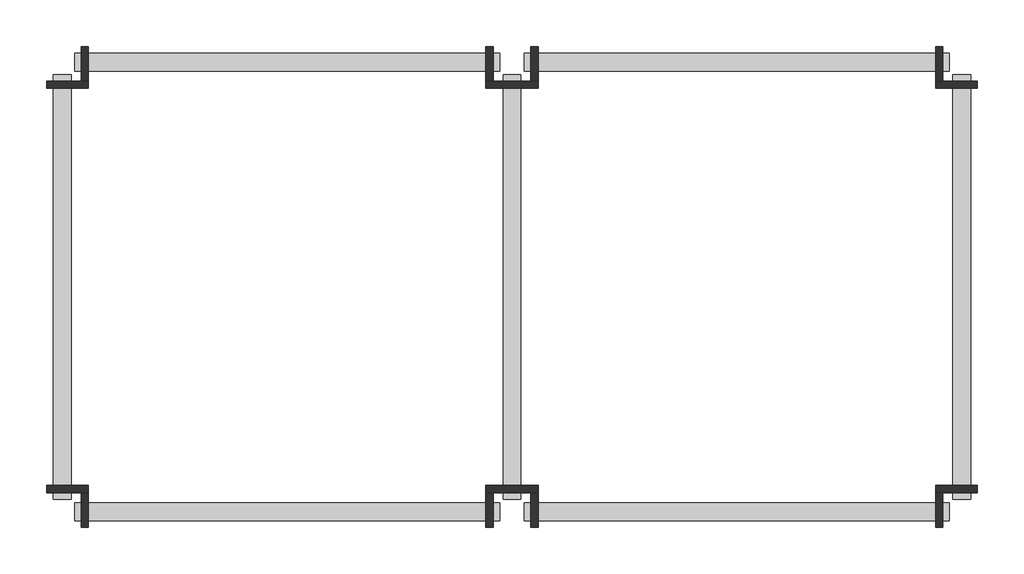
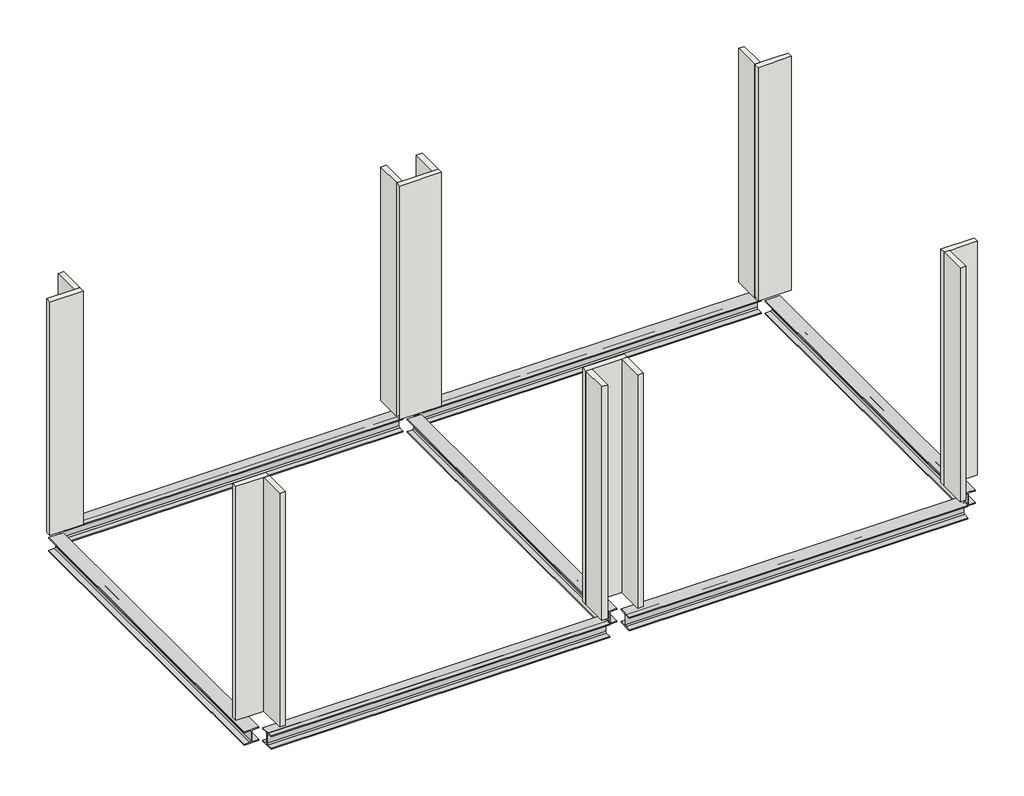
# One storey: 14 walls, 7 beams.
"""IFC4 building model written with IfcOpenShell, lengths in millimetres."""

from ifc_helpers import new_model, si_unit, frame, origin, place, context, project, spatial, polyline, outline, extrude, faceted_brep, transform, mapped, element, save
from components import heb200_d26bcb9a

model = new_model("IFC4")

# Units and contexts
model_context = context("Model", 3, world=origin())
ifc_project = project(units=[si_unit("LENGTHUNIT", "METRE", prefix="MILLI")], contexts=[model_context])

# Site, building, storey
site = spatial("IfcSite", under=ifc_project)
building = spatial("IfcBuilding", under=site)
storey = spatial("IfcBuildingStorey", under=building, Name="2階", Elevation=3800.0)

# Beams
placement = place(None, origin())
heb200_shape = heb200_d26bcb9a(model_context)
element("IfcBeam", 1, ObjectType="HE-B : HEB200", at=placement, inside=storey, context=model_context, shape_type="MappedRepresentation", body=[
    mapped(heb200_shape, transform((-5047.3880564, 86.0382733, 3550.0), x_axis=(0.0, -1.0, 0.0), y_axis=(1.0, 0.0, 0.0), z_axis=(0.0, 0.0, 1.0))),
])
element("IfcBeam", 2, ObjectType="HE-B : HEB200", at=placement, inside=storey, context=model_context, shape_type="MappedRepresentation", body=[
    mapped(heb200_shape, transform((-47.3880564, 86.0382733, 3550.0), x_axis=(0.0, -1.0, 0.0), y_axis=(1.0, 0.0, 0.0), z_axis=(0.0, 0.0, 1.0))),
])
element("IfcBeam", 3, ObjectType="HE-B : HEB200", at=placement, inside=storey, context=model_context, shape_type="MappedRepresentation", body=[
    mapped(heb200_shape, transform((4952.6119436, 86.0382733, 3550.0), x_axis=(0.0, -1.0, 0.0), y_axis=(1.0, 0.0, 0.0), z_axis=(0.0, 0.0, 1.0))),
])
element("IfcBeam", 4, ObjectType="HE-B : HEB200", at=placement, inside=storey, context=model_context, shape_type="MappedRepresentation", body=[
    mapped(heb200_shape, transform((2452.6119436, -2413.9617267, 3550.0), x_axis=(-1.0, 0.0, 0.0), y_axis=(0.0, -1.0, 0.0), z_axis=(0.0, 0.0, 1.0))),
])
element("IfcBeam", 5, ObjectType="HE-B : HEB200", at=placement, inside=storey, context=model_context, shape_type="MappedRepresentation", body=[
    mapped(heb200_shape, transform((-2547.3880564, -2413.9617267, 3550.0), x_axis=(-1.0, 0.0, 0.0), y_axis=(0.0, -1.0, 0.0), z_axis=(0.0, 0.0, 1.0))),
])
element("IfcBeam", 6, ObjectType="HE-B : HEB200", at=placement, inside=storey, context=model_context, shape_type="MappedRepresentation", body=[
    mapped(heb200_shape, transform((2452.6119436, 2586.0382733, 3550.0), x_axis=(-1.0, 0.0, 0.0), y_axis=(0.0, -1.0, 0.0), z_axis=(0.0, 0.0, 1.0))),
])
element("IfcBeam", 7, ObjectType="HE-B : HEB200", at=placement, inside=storey, context=model_context, shape_type="MappedRepresentation", body=[
    mapped(heb200_shape, transform((-2547.3880564, 2586.0382733, 3550.0), x_axis=(-1.0, 0.0, 0.0), y_axis=(0.0, -1.0, 0.0), z_axis=(0.0, 0.0, 1.0))),
])

# Walls
element("IfcWall", 8, ObjectType="内壁-79mm 間仕切り(1時間)", at=placement, inside=storey, context=model_context, shape_type="SweptSolid", body=[
    extrude(outline(polyline([(-4836.8880564, 2375.5382733), (-4836.8880564, 2761.0382733), (-4757.8880564, 2761.0382733), (-4757.8880564, 2375.5382733), (-4836.8880564, 2375.5382733)])), frame((0.0, 0.0, 3800.0), z_axis=(0.0, 0.0, 1.0), x_axis=(1.0, 0.0, 0.0)), (0.0, 0.0, 1.0), 3450.0),
])
element("IfcWall", 9, ObjectType="内壁-79mm 間仕切り(1時間)", at=placement, inside=storey, context=model_context, shape_type="Brep", body=[
    faceted_brep([(-4757.8880564, 2375.5382733, 3800.0), (-4836.8880564, 2375.5382733, 3800.0), (-5222.3880564, 2375.5382733, 3800.0), (-5222.3880564, 2375.5382733, 7250.0), (-4836.8880564, 2375.5382733, 7250.0), (-4757.8880564, 2375.5382733, 7250.0), (-4757.8880564, 2296.5382733, 3800.0), (-4757.8880564, 2296.5382733, 7250.0), (-5222.3880564, 2296.5382733, 7250.0), (-5222.3880564, 2296.5382733, 3800.0)], [[[0, 1, 2, 3, 4, 5]], [[6, 7, 8, 9]], [[2, 1, 0, 6, 9]], [[5, 4, 3, 8, 7]], [[0, 5, 7, 6]], [[3, 2, 9, 8]]]),
])
element("IfcWall", 10, ObjectType="内壁-79mm 間仕切り(1時間)", at=placement, inside=storey, context=model_context, shape_type="SweptSolid", body=[
    extrude(outline(polyline([(163.1119436, 2375.5382733), (163.1119436, 2761.0382733), (242.1119436, 2761.0382733), (242.1119436, 2375.5382733), (163.1119436, 2375.5382733)])), frame((0.0, 0.0, 3800.0), z_axis=(0.0, 0.0, 1.0), x_axis=(1.0, 0.0, 0.0)), (0.0, 0.0, 1.0), 3450.0),
])
element("IfcWall", 11, ObjectType="内壁-79mm 間仕切り(1時間)", at=placement, inside=storey, context=model_context, shape_type="Brep", body=[
    faceted_brep([(242.1119436, 2375.5382733, 3800.0), (163.1119436, 2375.5382733, 3800.0), (-257.8880564, 2375.5382733, 3800.0), (-336.8880564, 2375.5382733, 3800.0), (-336.8880564, 2375.5382733, 7250.0), (-257.8880564, 2375.5382733, 7250.0), (163.1119436, 2375.5382733, 7250.0), (242.1119436, 2375.5382733, 7250.0), (242.1119436, 2296.5382733, 3800.0), (242.1119436, 2296.5382733, 7250.0), (-336.8880564, 2296.5382733, 7250.0), (-336.8880564, 2296.5382733, 3800.0)], [[[0, 1, 2, 3, 4, 5, 6, 7]], [[8, 9, 10, 11]], [[3, 2, 1, 0, 8, 11]], [[7, 6, 5, 4, 10, 9]], [[0, 7, 9, 8]], [[4, 3, 11, 10]]]),
])
element("IfcWall", 12, ObjectType="内壁-79mm 間仕切り(1時間)", at=placement, inside=storey, context=model_context, shape_type="SweptSolid", body=[
    extrude(outline(polyline([(-257.8880564, 2761.0382733), (-257.8880564, 2375.5382733), (-336.8880564, 2375.5382733), (-336.8880564, 2761.0382733), (-257.8880564, 2761.0382733)])), frame((0.0, 0.0, 3800.0), z_axis=(0.0, 0.0, 1.0), x_axis=(1.0, 0.0, 0.0)), (0.0, 0.0, 1.0), 3450.0),
])
element("IfcWall", 13, ObjectType="内壁-79mm 間仕切り(1時間)", at=placement, inside=storey, context=model_context, shape_type="SweptSolid", body=[
    extrude(outline(polyline([(4663.1119436, 2375.5382733), (4663.1119436, 2761.0382733), (4742.1119436, 2761.0382733), (4742.1119436, 2375.5382733), (4663.1119436, 2375.5382733)])), frame((0.0, 0.0, 3800.0), z_axis=(0.0, 0.0, 1.0), x_axis=(1.0, 0.0, 0.0)), (0.0, 0.0, 1.0), 3450.0),
])
element("IfcWall", 14, ObjectType="内壁-79mm 間仕切り(1時間)", at=placement, inside=storey, context=model_context, shape_type="Brep", body=[
    faceted_brep([(4663.1119436, 2296.5382733, 3800.0), (5127.6119436, 2296.5382733, 3800.0), (5127.6119436, 2296.5382733, 7250.0), (4663.1119436, 2296.5382733, 7250.0), (4663.1119436, 2375.5382733, 3800.0), (4663.1119436, 2375.5382733, 7250.0), (4742.1119436, 2375.5382733, 7250.0), (5127.6119436, 2375.5382733, 7250.0), (5127.6119436, 2375.5382733, 3800.0), (4742.1119436, 2375.5382733, 3800.0)], [[[0, 1, 2, 3]], [[4, 5, 6, 7, 8, 9]], [[1, 0, 4, 9, 8]], [[3, 2, 7, 6, 5]], [[0, 3, 5, 4]], [[2, 1, 8, 7]]]),
])
element("IfcWall", 15, ObjectType="内壁-79mm 間仕切り(1時間)", at=placement, inside=storey, context=model_context, shape_type="SweptSolid", body=[
    extrude(outline(polyline([(-4757.8880564, -2203.4617267), (-4757.8880564, -2588.9617267), (-4836.8880564, -2588.9617267), (-4836.8880564, -2203.4617267), (-4757.8880564, -2203.4617267)])), frame((0.0, 0.0, 3800.0), z_axis=(0.0, 0.0, 1.0), x_axis=(1.0, 0.0, 0.0)), (0.0, 0.0, 1.0), 3450.0),
])
element("IfcWall", 16, ObjectType="内壁-79mm 間仕切り(1時間)", at=placement, inside=storey, context=model_context, shape_type="Brep", body=[
    faceted_brep([(-4757.8880564, -2124.4617267, 3800.0), (-5222.3880564, -2124.4617267, 3800.0), (-5222.3880564, -2124.4617267, 7250.0), (-4757.8880564, -2124.4617267, 7250.0), (-4757.8880564, -2203.4617267, 3800.0), (-4757.8880564, -2203.4617267, 7250.0), (-4836.8880564, -2203.4617267, 7250.0), (-5222.3880564, -2203.4617267, 7250.0), (-5222.3880564, -2203.4617267, 3800.0), (-4836.8880564, -2203.4617267, 3800.0)], [[[0, 1, 2, 3]], [[4, 5, 6, 7, 8, 9]], [[1, 0, 4, 9, 8]], [[3, 2, 7, 6, 5]], [[0, 3, 5, 4]], [[2, 1, 8, 7]]]),
])
element("IfcWall", 17, ObjectType="内壁-79mm 間仕切り(1時間)", at=placement, inside=storey, context=model_context, shape_type="SweptSolid", body=[
    extrude(outline(polyline([(242.1119436, -2203.4617267), (242.1119436, -2588.9617267), (163.1119436, -2588.9617267), (163.1119436, -2203.4617267), (242.1119436, -2203.4617267)])), frame((0.0, 0.0, 3800.0), z_axis=(0.0, 0.0, 1.0), x_axis=(1.0, 0.0, 0.0)), (0.0, 0.0, 1.0), 3450.0),
])
element("IfcWall", 18, ObjectType="内壁-79mm 間仕切り(1時間)", at=placement, inside=storey, context=model_context, shape_type="Brep", body=[
    faceted_brep([(242.1119436, -2124.4617267, 3800.0), (-336.8880564, -2124.4617267, 3800.0), (-336.8880564, -2124.4617267, 7250.0), (242.1119436, -2124.4617267, 7250.0), (242.1119436, -2203.4617267, 3800.0), (242.1119436, -2203.4617267, 7250.0), (163.1119436, -2203.4617267, 7250.0), (-257.8880564, -2203.4617267, 7250.0), (-336.8880564, -2203.4617267, 7250.0), (-336.8880564, -2203.4617267, 3800.0), (-257.8880564, -2203.4617267, 3800.0), (163.1119436, -2203.4617267, 3800.0)], [[[0, 1, 2, 3]], [[4, 5, 6, 7, 8, 9, 10, 11]], [[1, 0, 4, 11, 10, 9]], [[3, 2, 8, 7, 6, 5]], [[0, 3, 5, 4]], [[2, 1, 9, 8]]]),
])
element("IfcWall", 19, ObjectType="内壁-79mm 間仕切り(1時間)", at=placement, inside=storey, context=model_context, shape_type="SweptSolid", body=[
    extrude(outline(polyline([(-336.8880564, -2588.9617267), (-336.8880564, -2203.4617267), (-257.8880564, -2203.4617267), (-257.8880564, -2588.9617267), (-336.8880564, -2588.9617267)])), frame((0.0, 0.0, 3800.0), z_axis=(0.0, 0.0, 1.0), x_axis=(1.0, 0.0, 0.0)), (0.0, 0.0, 1.0), 3450.0),
])
element("IfcWall", 20, ObjectType="内壁-79mm 間仕切り(1時間)", at=placement, inside=storey, context=model_context, shape_type="SweptSolid", body=[
    extrude(outline(polyline([(4742.1119436, -2203.4617267), (4742.1119436, -2588.9617267), (4663.1119436, -2588.9617267), (4663.1119436, -2203.4617267), (4742.1119436, -2203.4617267)])), frame((0.0, 0.0, 3800.0), z_axis=(0.0, 0.0, 1.0), x_axis=(1.0, 0.0, 0.0)), (0.0, 0.0, 1.0), 3450.0),
])
element("IfcWall", 21, ObjectType="内壁-79mm 間仕切り(1時間)", at=placement, inside=storey, context=model_context, shape_type="Brep", body=[
    faceted_brep([(4663.1119436, -2203.4617267, 3800.0), (4742.1119436, -2203.4617267, 3800.0), (5127.6119436, -2203.4617267, 3800.0), (5127.6119436, -2203.4617267, 7250.0), (4742.1119436, -2203.4617267, 7250.0), (4663.1119436, -2203.4617267, 7250.0), (4663.1119436, -2124.4617267, 3800.0), (4663.1119436, -2124.4617267, 7250.0), (5127.6119436, -2124.4617267, 7250.0), (5127.6119436, -2124.4617267, 3800.0)], [[[0, 1, 2, 3, 4, 5]], [[6, 7, 8, 9]], [[2, 1, 0, 6, 9]], [[5, 4, 3, 8, 7]], [[0, 5, 7, 6]], [[3, 2, 9, 8]]]),
])

save(model, "model.ifc")
